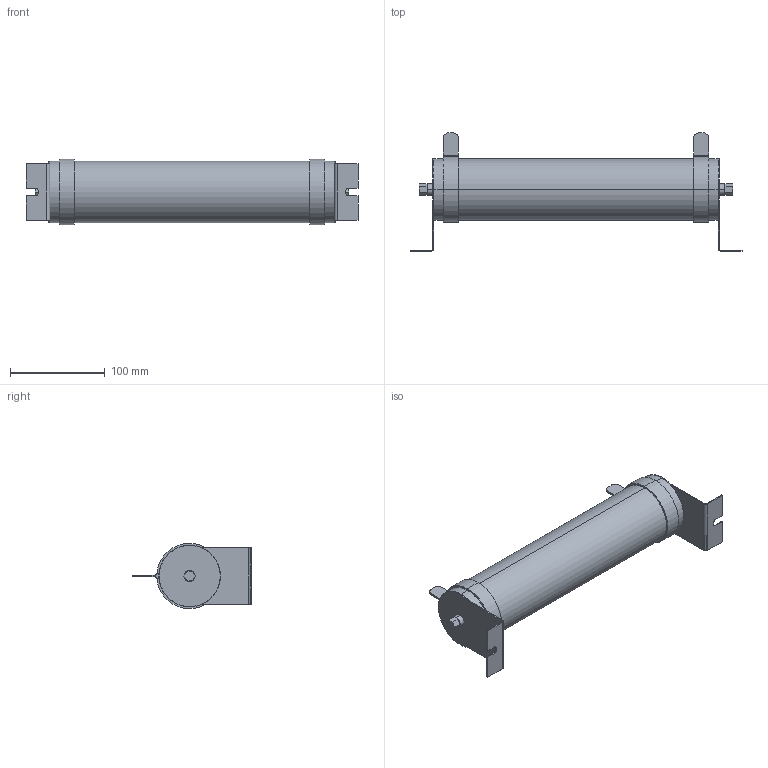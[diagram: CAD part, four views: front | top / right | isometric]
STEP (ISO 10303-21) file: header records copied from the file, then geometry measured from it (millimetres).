
FILE_DESCRIPTION (( 'STEP AP203' ), '1' );
FILE_NAME ('IRT-100-1000.STEP', '2022-11-16T11:56:15', ( '' ), ( '' ), 'SwSTEP 2.0', 'SolidWorks 2018', '' );
FILE_SCHEMA (( 'CONFIG_CONTROL_DESIGN' ));
Length unit declared in the file: millimetre
Products named in the file (1): IRT-100-1000
Bounding box: 350 x 125 x 69 mm (x, y, z)
Volume: 1027122.5 mm3; surface area: 87908.8 mm2
Topology: 1 solids, 1 shells, 102 faces, 246 edges, 156 vertices
Faces by surface type: plane 60, cylinder 42
Entity records: 3051 total; most frequent: DIRECTION 548, CARTESIAN_POINT 505, ORIENTED_EDGE 492, EDGE_CURVE 246, AXIS2_PLACEMENT_3D 199, VERTEX_POINT 156, LINE 150, VECTOR 150
